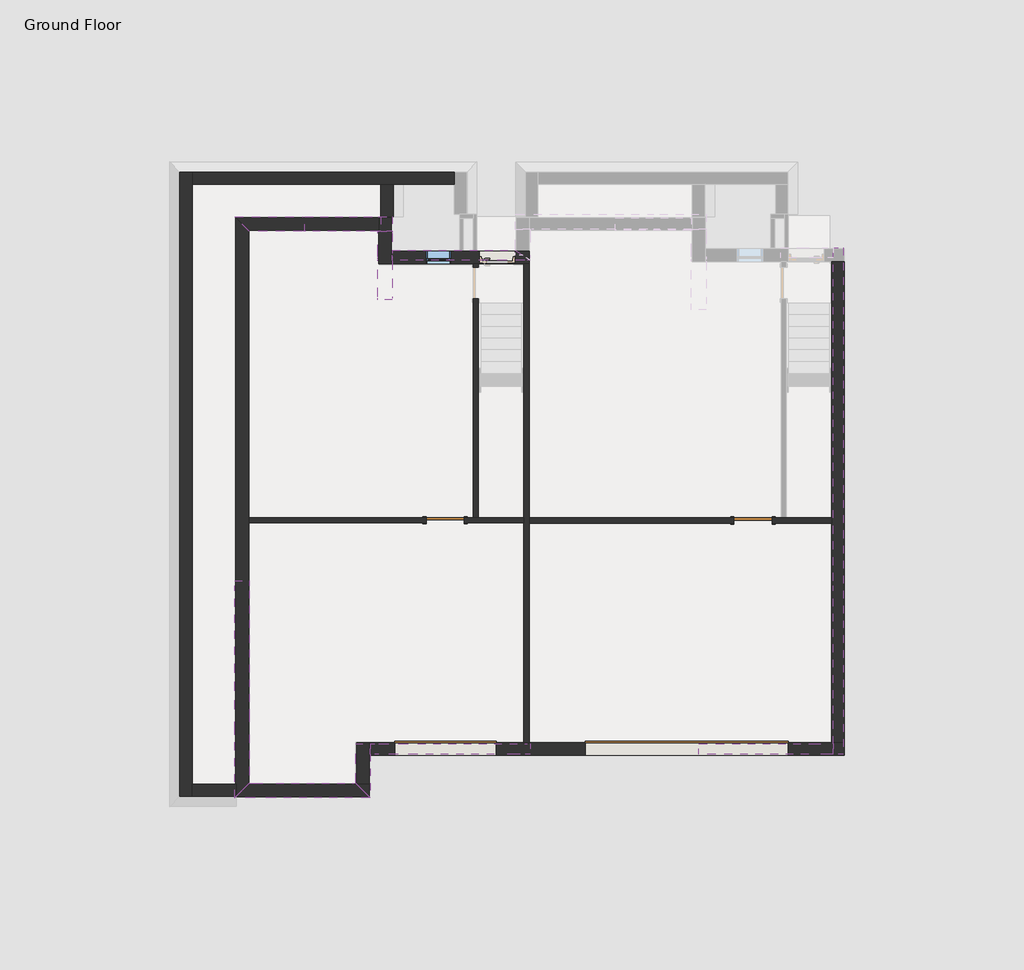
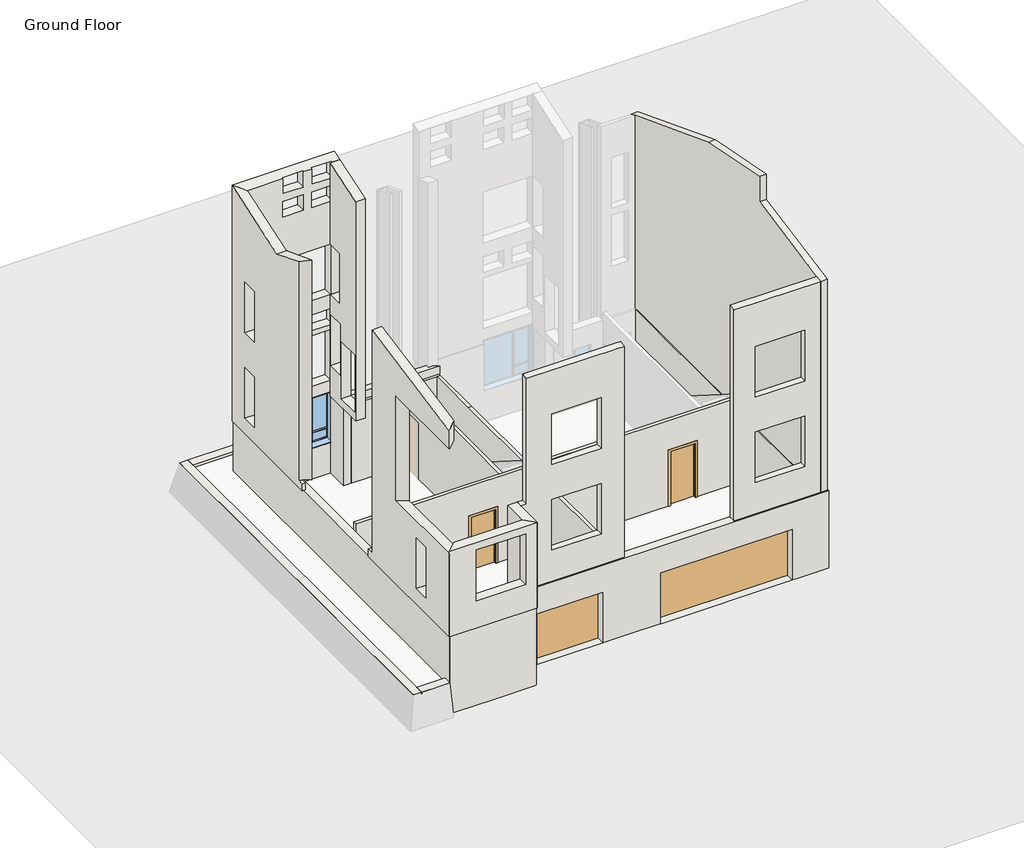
# One storey, part 1 of 2: 25 walls, 4 doors, 2 windows.
"""IFC4 building model written with IfcOpenShell, lengths in millimetres."""

from ifc_helpers import new_model, si_unit, frame, origin, place, context, project, spatial, polyline, outline, extrude, faceted_brep, transform, mapped, element, save
from components import door_03d53f81, door_8bec8b28, door_88503111, window_ca6665d5, window_dcb26459

model = new_model("IFC4")

# Units and contexts
model_context = context("Model", 3, world=origin())
ifc_project = project(units=[si_unit("LENGTHUNIT", "METRE", prefix="MILLI")], contexts=[model_context])

# Site, building, storey
site = spatial("IfcSite", under=ifc_project)
building = spatial("IfcBuilding", under=site)
storey = spatial("IfcBuildingStorey", under=building, Name="Ground Floor", Elevation=-3352.8)

# Doors
placement = place(None, origin())
door_shape = door_03d53f81(model_context)
element("IfcDoor", 1, ObjectType="Door-Overhead-Sectional : 16' x 6'-6\"", at=placement, inside=storey, context=model_context, shape_type="MappedRepresentation", body=[
    mapped(door_shape, transform((2182.7178219, -6034.5046456, -3352.8), x_axis=(1.0, 0.0, 0.0), y_axis=(0.0, 1.0, 0.0), z_axis=(0.0, 0.0, 1.0))),
])
door_2_shape = door_8bec8b28(model_context)
element("IfcDoor", 2, ObjectType="Door-Overhead-Sectional : 8' x 6'-6\"", at=placement, inside=storey, context=model_context, shape_type="MappedRepresentation", body=[
    mapped(door_2_shape, transform((-3608.4821781, -6034.5046456, -3352.8), x_axis=(-1.0, 0.0, 0.0), y_axis=(0.0, -1.0, 0.0), z_axis=(0.0, 0.0, 1.0))),
])
door_3_shape = door_88503111(model_context)
element("IfcDoor", 3, ObjectType="Single-Flush : 36\" x 84\"", at=placement, inside=storey, context=model_context, shape_type="MappedRepresentation", body=[
    mapped(door_3_shape, transform((-3614.4696781, -546.2436915, -3352.8), x_axis=(1.0, 0.0, 0.0), y_axis=(0.0, 1.0, 0.0), z_axis=(0.0, 0.0, 1.0))),
])
element("IfcDoor", 4, ObjectType="Single-Flush : 36\" x 84\"", at=placement, inside=storey, context=model_context, shape_type="MappedRepresentation", body=[
    mapped(door_3_shape, transform((3776.1161072, -551.0718139, -3352.8), x_axis=(1.0, 0.0, 0.0), y_axis=(0.0, 1.0, 0.0), z_axis=(0.0, 0.0, 1.0))),
])

# Walls
element("IfcWall", 5, ObjectType="Exterior - Brick", at=placement, inside=storey, context=model_context, shape_type="Brep", body=[
    faceted_brep([(-8664.6696781, -7206.5436915, -304.8), (-5413.4696781, -7206.5436915, -304.8), (-5413.4696781, -7206.5436915, 3048.0), (-8664.6696781, -7206.5436915, 3048.0), (-7671.3168819, -7206.5436915, 762.0), (-7671.3168819, -7206.5436915, 2743.2), (-5842.5168819, -7206.5436915, 2743.2), (-5842.5168819, -7206.5436915, 762.0), (-5765.8946781, -6854.1186915, -304.8), (-8312.2446781, -6854.1186915, -304.8), (-8312.2446781, -6854.1186915, 3048.0), (-5765.8946781, -6854.1186915, 3048.0), (-7671.3168819, -6854.1186915, 2743.2), (-7671.3168819, -6854.1186915, 762.0), (-5842.5168819, -6854.1186915, 762.0), (-5842.5168819, -6854.1186915, 2743.2)], [[[0, 1, 2, 3], [4, 5, 6, 7]], [[8, 9, 10, 11], [12, 13, 14, 15]], [[1, 0, 9, 8]], [[2, 1, 8, 11]], [[3, 2, 11, 10]], [[0, 3, 10, 9]], [[12, 5, 4, 13]], [[13, 4, 7, 14]], [[14, 7, 6, 15]], [[5, 12, 15, 6]]]),
])
element("IfcWall", 6, ObjectType="Exterior - Brick", at=placement, inside=storey, context=model_context, shape_type="Brep", body=[
    faceted_brep([(-5413.4696781, -7206.5436915, -304.8), (-5413.4696781, -6155.1546456, -304.8), (-5413.4696781, -5913.8546456, -304.8), (-5413.4696781, -5913.8546456, 3048.0), (-5413.4696781, -6155.1546456, 3048.0), (-5413.4696781, -7206.5436915, 3048.0), (-5765.8946781, -6854.1186915, -304.8), (-5765.8946781, -6854.1186915, 3048.0), (-5765.8946781, -5913.8546456, 3048.0), (-5765.8946781, -5913.8546456, -304.8)], [[[0, 1, 2, 3, 4, 5]], [[6, 7, 8, 9]], [[2, 1, 0, 6, 9]], [[3, 2, 9, 8]], [[0, 5, 7, 6]], [[5, 4, 3, 8, 7]]]),
])
element("IfcWall", 7, ObjectType="Exterior - Brick on Mtl. Stud", at=placement, inside=storey, context=model_context, shape_type="Brep", body=[
    faceted_brep([(-8312.2446781, 6389.4938085, 8822.2842549), (-8312.2446781, 6389.4938085, 0.0), (-8312.2446781, 6389.4938085, -304.8), (-6989.0821781, 6389.4938085, -304.8), (-6989.0821781, 6389.4938085, -152.4), (-5160.2821781, 6389.4938085, -152.4), (-5160.2821781, 6389.4938085, -304.8), (-4883.0196781, 6389.4938085, -304.8), (-4883.0196781, 6389.4938085, 3657.6), (-5235.4446781, 6389.4938085, 3657.6), (-7048.4446781, 6389.4938085, 3657.6), (-7048.4446781, 6389.4938085, 5638.8), (-5235.4446781, 6389.4938085, 5638.8), (-4883.0196781, 6389.4938085, 5638.8), (-4883.0196781, 6389.4938085, 8822.2842549), (-5160.2821781, 6389.4938085, 8822.2842549), (-5160.2821781, 6389.4938085, 8229.6), (-5922.2821781, 6389.4938085, 8229.6), (-5922.2821781, 6389.4938085, 8822.2842549), (-6227.0821781, 6389.4938085, 8822.2842549), (-6227.0821781, 6389.4938085, 8229.6), (-6989.0821781, 6389.4938085, 8229.6), (-6989.0821781, 6389.4938085, 8822.2842549), (-5160.2821781, 6389.4938085, 3098.8), (-5160.2821781, 6389.4938085, 2489.2), (-5922.2821781, 6389.4938085, 2489.2), (-5922.2821781, 6389.4938085, 3098.8), (-5160.2821781, 6389.4938085, 7924.8), (-5160.2821781, 6389.4938085, 7315.2), (-5922.2821781, 6389.4938085, 7315.2), (-5922.2821781, 6389.4938085, 7924.8), (-6989.0821781, 6389.4938085, 2489.2), (-6989.0821781, 6389.4938085, 3098.8), (-6227.0821781, 6389.4938085, 3098.8), (-6227.0821781, 6389.4938085, 2489.2), (-6227.0821781, 6389.4938085, 7924.8), (-6227.0821781, 6389.4938085, 7315.2), (-6989.0821781, 6389.4938085, 7315.2), (-6989.0821781, 6389.4938085, 7924.8), (-5219.6446781, 6389.4938085, 2286.0), (-5219.6446781, 6389.4938085, 304.8), (-7048.4446781, 6389.4938085, 304.8), (-7048.4446781, 6389.4938085, 2286.0), (-8664.6696781, 6741.9188085, 8938.1680475), (-4883.0196781, 6741.9188085, 8938.1680475), (-4883.0196781, 6741.9188085, -304.8), (-5160.2821781, 6741.9188085, -304.8), (-5160.2821781, 6741.9188085, -152.4), (-6989.0821781, 6741.9188085, -152.4), (-6989.0821781, 6741.9188085, -304.8), (-8664.6696781, 6741.9188085, -304.8), (-5160.2821781, 6741.9188085, 8229.6), (-5160.2821781, 6741.9188085, 8839.2), (-5922.2821781, 6741.9188085, 8839.2), (-5922.2821781, 6741.9188085, 8229.6), (-6227.0821781, 6741.9188085, 8229.6), (-6227.0821781, 6741.9188085, 8839.2), (-6989.0821781, 6741.9188085, 8839.2), (-6989.0821781, 6741.9188085, 8229.6), (-5219.6446781, 6741.9188085, 3657.6), (-5219.6446781, 6741.9188085, 5638.8), (-7048.4446781, 6741.9188085, 5638.8), (-7048.4446781, 6741.9188085, 3657.6), (-5160.2821781, 6741.9188085, 2489.2), (-5160.2821781, 6741.9188085, 3098.8), (-5922.2821781, 6741.9188085, 3098.8), (-5922.2821781, 6741.9188085, 2489.2), (-5160.2821781, 6741.9188085, 7315.2), (-5160.2821781, 6741.9188085, 7924.8), (-5922.2821781, 6741.9188085, 7924.8), (-5922.2821781, 6741.9188085, 7315.2), (-6989.0821781, 6741.9188085, 3098.8), (-6989.0821781, 6741.9188085, 2489.2), (-6227.0821781, 6741.9188085, 2489.2), (-6227.0821781, 6741.9188085, 3098.8), (-6227.0821781, 6741.9188085, 7315.2), (-6227.0821781, 6741.9188085, 7924.8), (-6989.0821781, 6741.9188085, 7924.8), (-6989.0821781, 6741.9188085, 7315.2), (-5219.6446781, 6741.9188085, 304.8), (-5219.6446781, 6741.9188085, 2286.0), (-7048.4446781, 6741.9188085, 2286.0), (-7048.4446781, 6741.9188085, 304.8), (-6989.0821781, 6440.9378573, 8839.2), (-6227.0821781, 6440.9378573, 8839.2), (-5922.2821781, 6440.9378573, 8839.2), (-5160.2821781, 6440.9378573, 8839.2), (-4883.0196781, 6394.6313085, 5638.8), (-4883.0196781, 6394.6313085, 3657.6), (-5219.6446781, 6394.6313085, 3657.6), (-5219.6446781, 6394.6313085, 5638.8)], [[[0, 1, 2, 3, 4, 5, 6, 7, 8, 9, 10, 11, 12, 13, 14, 15, 16, 17, 18, 19, 20, 21, 22], [23, 24, 25, 26], [27, 28, 29, 30], [31, 32, 33, 34], [35, 36, 37, 38], [39, 40, 41, 42]], [[43, 44, 45, 46, 47, 48, 49, 50], [51, 52, 53, 54], [55, 56, 57, 58], [59, 60, 61, 62], [63, 64, 65, 66], [67, 68, 69, 70], [71, 72, 73, 74], [75, 76, 77, 78], [79, 80, 81, 82]], [[45, 7, 6, 46]], [[2, 50, 49, 3]], [[44, 43, 0, 22, 83, 84, 19, 18, 85, 86, 15, 14]], [[7, 45, 44, 14, 13, 87, 88, 8]], [[2, 1, 0, 43, 50]], [[5, 47, 46, 6]], [[48, 4, 3, 49]], [[47, 5, 4, 48]], [[86, 52, 51, 16, 15]], [[16, 51, 54, 17]], [[17, 54, 53, 85, 18]], [[52, 86, 85, 53]], [[84, 56, 55, 20, 19]], [[20, 55, 58, 21]], [[21, 58, 57, 83, 22]], [[56, 84, 83, 57]], [[60, 59, 89, 90]], [[62, 10, 9, 8, 88, 89, 59]], [[10, 62, 61, 11]], [[11, 61, 60, 90, 87, 13, 12]], [[87, 90, 89, 88]], [[23, 64, 63, 24]], [[24, 63, 66, 25]], [[25, 66, 65, 26]], [[64, 23, 26, 65]], [[27, 68, 67, 28]], [[28, 67, 70, 29]], [[29, 70, 69, 30]], [[68, 27, 30, 69]], [[72, 71, 32, 31]], [[73, 72, 31, 34]], [[74, 73, 34, 33]], [[71, 74, 33, 32]], [[36, 35, 76, 75]], [[37, 36, 75, 78]], [[38, 37, 78, 77]], [[35, 38, 77, 76]], [[39, 80, 79, 40]], [[40, 79, 82, 41]], [[41, 82, 81, 42]], [[80, 39, 42, 81]]]),
])
element("IfcWall", 8, ObjectType="Exterior - Brick on Mtl. Stud", at=placement, inside=storey, context=model_context, shape_type="Brep", body=[
    faceted_brep([(-8312.2446781, -2238.8436915, 8711.0519224), (-8312.2446781, -6854.1186915, 7827.4619555), (-8312.2446781, -6854.1186915, 7052.8), (-8312.2446781, -4012.0811915, 7052.8), (-8312.2446781, -4012.0811915, 2952.8), (-8312.2446781, -6854.1186915, 2952.8), (-8312.2446781, -6854.1186915, 0.0), (-8312.2446781, -6854.1186915, -304.8), (-8312.2446781, -1997.5436915, -304.8), (-8312.2446781, -1997.5436915, -28.575), (-8312.2446781, -2238.8436915, -28.575), (-8312.2446781, -2238.8436915, 0.0), (-8312.2446781, -5688.3425794, 304.8), (-8312.2446781, -5688.3425794, 2286.0), (-8312.2446781, -5078.7425794, 2286.0), (-8312.2446781, -5078.7425794, 304.8), (-8664.6696781, -7206.5436915, 7759.9905277), (-8664.6696781, -2238.8436915, 8711.0519224), (-8664.6696781, -2238.8436915, -28.575), (-8664.6696781, -1997.5436915, -28.575), (-8664.6696781, -1997.5436915, -304.8), (-8664.6696781, -7206.5436915, -304.8), (-8664.6696781, -7206.5436915, 2952.8), (-8664.6696781, -3770.7811915, 2952.8), (-8664.6696781, -3770.7811915, 7052.8), (-8664.6696781, -7206.5436915, 7052.8), (-8664.6696781, -5688.3425794, 2286.0), (-8664.6696781, -5688.3425794, 304.8), (-8664.6696781, -5078.7425794, 304.8), (-8664.6696781, -5078.7425794, 2286.0)], [[[0, 1, 2, 3, 4, 5, 6, 7, 8, 9, 10, 11], [12, 13, 14, 15]], [[16, 17, 18, 19, 20, 21, 22, 23, 24, 25], [26, 27, 28, 29]], [[7, 21, 20, 8]], [[17, 16, 1, 0]], [[23, 22, 5, 4]], [[25, 24, 3, 2]], [[18, 10, 9, 19]], [[18, 17, 0, 11, 10]], [[24, 23, 4, 3]], [[22, 21, 7, 6, 5]], [[16, 25, 2, 1]], [[27, 26, 13, 12]], [[28, 27, 12, 15]], [[29, 28, 15, 14]], [[26, 29, 14, 13]], [[9, 8, 20, 19]]]),
    faceted_brep([(-8312.2446781, 6389.4938085, 8821.6527681), (-8312.2446781, 3870.984475, 7984.4952914), (-8312.2446781, 2230.7574206, 8615.9369278), (-8312.2446781, 2230.7574206, 0.0), (-8312.2446781, 6389.4938085, 0.0), (-8312.2446781, 5921.5563085, 2286.0), (-8312.2446781, 5921.5563085, 304.8), (-8312.2446781, 5311.9563085, 304.8), (-8312.2446781, 5311.9563085, 2286.0), (-8312.2446781, 5921.5563085, 5638.8), (-8312.2446781, 5921.5563085, 3657.6), (-8312.2446781, 5311.9563085, 3657.6), (-8312.2446781, 5311.9563085, 5638.8), (-8664.6696781, 2472.0574206, -28.575), (-8664.6696781, 2472.0574206, 8523.0431626), (-8664.6696781, 3870.984475, 7984.4952914), (-8664.6696781, 6741.9188085, 8938.7995342), (-8664.6696781, 6741.9188085, -304.8), (-8664.6696781, 2230.7574206, -304.8), (-8664.6696781, 2230.7574206, -28.575), (-8664.6696781, 5921.5563085, 304.8), (-8664.6696781, 5921.5563085, 2286.0), (-8664.6696781, 5311.9563085, 2286.0), (-8664.6696781, 5311.9563085, 304.8), (-8664.6696781, 5921.5563085, 3657.6), (-8664.6696781, 5921.5563085, 5638.8), (-8664.6696781, 5311.9563085, 5638.8), (-8664.6696781, 5311.9563085, 3657.6), (-8312.2446781, 6389.4938085, -304.8), (-8566.5821781, 6389.4938085, -304.8), (-8566.5821781, 2230.7574206, -304.8), (-8566.5821781, 2230.7574206, -28.575), (-8566.5821781, 2404.8984116, -28.575), (-8566.5821781, 2404.8984116, 0.0), (-8566.5821781, 6389.4938085, 0.0)], [[[0, 1, 2, 3, 4], [5, 6, 7, 8], [9, 10, 11, 12]], [[13, 14, 15, 16, 17, 18, 19], [20, 21, 22, 23], [24, 25, 26, 27]], [[17, 28, 29, 30, 18]], [[13, 19, 31, 32]], [[14, 13, 32, 33, 3, 2]], [[16, 15, 1, 0]], [[15, 14, 2, 1]], [[17, 16, 0, 4, 28]], [[5, 21, 20, 6]], [[6, 20, 23, 7]], [[7, 23, 22, 8]], [[21, 5, 8, 22]], [[10, 9, 25, 24]], [[11, 10, 24, 27]], [[12, 11, 27, 26]], [[9, 12, 26, 25]], [[34, 4, 3, 33]], [[30, 31, 19, 18]], [[29, 34, 33, 32, 31, 30]], [[34, 29, 28, 4]]]),
])
element("IfcWall", 9, ObjectType="Exterior - Brick on Mtl. Stud", at=placement, inside=storey, context=model_context, shape_type="Brep", body=[
    faceted_brep([(-4883.0196781, 4753.1563085, -304.8), (-4883.0196781, 5697.0687973, -304.8), (-4883.0196781, 5938.3687973, -304.8), (-4883.0196781, 6389.4938085, -304.8), (-4883.0196781, 6389.4938085, 3657.6), (-4883.0196781, 5785.0313085, 3657.6), (-4883.0196781, 5785.0313085, 5638.8), (-4883.0196781, 6389.4938085, 5638.8), (-4883.0196781, 6389.4938085, 8822.2842549), (-4883.0196781, 4753.1563085, 8284.2265248), (-4883.0196781, 5734.2313085, 914.4), (-4883.0196781, 5734.2313085, 2895.6), (-4883.0196781, 6343.8313085, 2895.6), (-4883.0196781, 6343.8313085, 914.4), (-4883.0196781, 4826.1813085, 0.0), (-4883.0196781, 4826.1813085, 2235.2), (-4883.0196781, 5689.7813085, 2235.2), (-4883.0196781, 5689.7813085, 0.0), (-5235.4446781, 6389.4938085, -304.8), (-5235.4446781, 4753.1563085, -304.8), (-5235.4446781, 4753.1563085, 0.0), (-5235.4446781, 4753.1563085, 6705.6), (-5235.4446781, 4753.1563085, 8284.2265248), (-5235.4446781, 6389.4938085, 8822.2842549), (-5235.4446781, 6389.4938085, 5638.8), (-5235.4446781, 5785.0313085, 5638.8), (-5235.4446781, 5785.0313085, 3657.6), (-5235.4446781, 6389.4938085, 3657.6), (-5235.4446781, 5734.2313085, 2895.6), (-5235.4446781, 5734.2313085, 914.4), (-5235.4446781, 6343.8313085, 914.4), (-5235.4446781, 6343.8313085, 2895.6), (-5235.4446781, 4826.1813085, 0.0), (-5235.4446781, 5689.7813085, 0.0), (-5235.4446781, 5689.7813085, 2235.2), (-5235.4446781, 4826.1813085, 2235.2), (-5160.2821781, 6389.4938085, -304.8), (-5160.2821781, 6389.4938085, 8822.2842549)], [[[0, 1, 2, 3, 4, 5, 6, 7, 8, 9], [10, 11, 12, 13], [14, 15, 16, 17]], [[18, 19, 20, 21, 22, 23, 24, 25, 26, 27], [28, 29, 30, 31], [32, 33, 34, 35]], [[19, 18, 36, 3, 2, 1, 0]], [[23, 22, 9, 8, 37]], [[22, 21, 20, 19, 0, 9]], [[28, 11, 10, 29]], [[29, 10, 13, 30]], [[30, 13, 12, 31]], [[11, 28, 31, 12]], [[25, 6, 5, 26]], [[26, 5, 4, 27]], [[6, 25, 24, 7]], [[3, 36, 18, 27, 4]], [[23, 37, 8, 7, 24]], [[15, 14, 32, 35]], [[16, 15, 35, 34]], [[17, 16, 34, 33]], [[14, 17, 33, 32]]]),
])
element("IfcWall", 10, ObjectType="Exterior - Stucco", at=placement, inside=storey, context=model_context, shape_type="Brep", body=[
    faceted_brep([(-1928.5446781, 5938.3687973, -304.8), (-4883.0196781, 5938.3687973, -304.8), (-4883.0196781, 5938.3687973, 0.0), (-3024.9735601, 5938.3687973, 0.0), (-1928.5446781, 5938.3687973, 0.0), (-1576.1196781, 5697.0687973, -304.8), (-1576.1196781, 5697.0687973, 0.0), (-1699.9446781, 5697.0687973, 0.0), (-3024.9735601, 5697.0687973, 0.0), (-4883.0196781, 5697.0687973, 0.0), (-4883.0196781, 5697.0687973, -304.8)], [[[0, 1, 2, 3, 4]], [[5, 6, 7, 8, 9, 10]], [[1, 0, 5, 10]], [[4, 3, 2, 9, 8, 7, 6]], [[0, 4, 6, 5]], [[2, 1, 10, 9]]]),
])
element("IfcWall", 11, ObjectType="Exterior - Stucco", at=placement, inside=storey, context=model_context, shape_type="Brep", body=[
    faceted_brep([(5698.2155789, 5995.5187973, -304.8), (5698.2155789, 5754.2187973, -304.8), (5698.2155789, -5913.8546456, -304.8), (5698.2155789, -6155.1546456, -304.8), (5698.2155789, -6155.1546456, 7960.2821444), (5698.2155789, -5913.8546456, 8006.2042381), (5698.2155789, -2238.8436915, 8705.6), (5698.2155789, -2238.8436915, 9713.3498366), (5698.2155789, -1997.5436915, 9665.7212145), (5698.2155789, 1023.3611207, 9069.4446552), (5698.2155789, 5754.2187973, 7248.1964902), (5698.2155789, 5995.5187973, 7155.302725), (5939.5155789, 5995.5187973, -304.8), (5939.5155789, 5995.5187973, 7155.302725), (5939.5155789, 1023.3611207, 9069.4446552), (5939.5155789, -2238.8436915, 9713.3498366), (5939.5155789, -2238.8436915, 8705.6), (5939.5155789, -6155.1546456, 7960.2821444), (5939.5155789, -6155.1546456, -304.8)], [[[0, 1, 2, 3, 4, 5, 6, 7, 8, 9, 10, 11]], [[12, 13, 14, 15, 16, 17, 18]], [[3, 2, 1, 0, 12, 18]], [[4, 3, 18, 17]], [[0, 11, 13, 12]], [[15, 7, 6, 16]], [[6, 5, 4, 17, 16]], [[11, 10, 9, 14, 13]], [[9, 8, 7, 15, 14]]]),
])
element("IfcWall", 12, ObjectType="Exterior - Stucco", at=placement, inside=storey, context=model_context, shape_type="Brep", body=[
    faceted_brep([(2477.8178219, -5913.8546456, -304.8), (5698.2155789, -5913.8546456, -304.8), (5698.2155789, -6155.1546456, -304.8), (2477.8178219, -6155.1546456, -304.8), (2477.8178219, -5913.8546456, 8006.2042381), (5698.2155789, -5913.8546456, 8006.2042381), (3280.9655789, -5913.8546456, 6248.4), (3280.9655789, -5913.8546456, 4267.2), (5109.7655789, -5913.8546456, 4267.2), (5109.7655789, -5913.8546456, 6248.4), (3280.9655789, -5913.8546456, 2895.6), (3280.9655789, -5913.8546456, 914.4), (5109.7655789, -5913.8546456, 914.4), (5109.7655789, -5913.8546456, 2895.6), (5698.2155789, -6155.1546456, 7960.2821444), (2477.8178219, -6155.1546456, 7960.2821444), (3280.9655789, -6155.1546456, 4267.2), (3280.9655789, -6155.1546456, 6248.4), (5109.7655789, -6155.1546456, 6248.4), (5109.7655789, -6155.1546456, 4267.2), (3280.9655789, -6155.1546456, 914.4), (3280.9655789, -6155.1546456, 2895.6), (5109.7655789, -6155.1546456, 2895.6), (5109.7655789, -6155.1546456, 914.4)], [[[0, 1, 2, 3]], [[1, 0, 4, 5], [6, 7, 8, 9], [10, 11, 12, 13]], [[3, 2, 14, 15], [16, 17, 18, 19], [20, 21, 22, 23]], [[1, 5, 14, 2]], [[16, 7, 6, 17]], [[7, 16, 19, 8]], [[18, 9, 8, 19]], [[17, 6, 9, 18]], [[14, 5, 4, 15]], [[4, 0, 3, 15]], [[10, 21, 20, 11]], [[11, 20, 23, 12]], [[12, 23, 22, 13]], [[21, 10, 13, 22]]]),
])
element("IfcWall", 13, ObjectType="Exterior - Stucco", at=placement, inside=storey, context=model_context, shape_type="Brep", body=[
    faceted_brep([(-5413.4696781, -5913.8546456, -304.8), (-1576.1196781, -5913.8546456, -304.8), (-1576.1196781, -6155.1546456, -304.8), (-1817.4196781, -6155.1546456, -304.8), (-5413.4696781, -6155.1546456, -304.8), (-5413.4696781, -5913.8546456, 3048.0), (-5204.2321781, -5913.8546456, 3048.0), (-5204.2321781, -5913.8546456, 8006.2042381), (-1699.9446781, -5913.8546456, 8006.2042381), (-1576.1196781, -5913.8546456, 8006.2042381), (-1576.1196781, -5913.8546456, 0.0), (-2438.2515857, -5913.8546456, 6248.4), (-4267.0515857, -5913.8546456, 6248.4), (-4267.0515857, -5913.8546456, 4267.2), (-2438.2515857, -5913.8546456, 4267.2), (-2438.2515857, -5913.8546456, 2895.6), (-4267.0515857, -5913.8546456, 2895.6), (-4267.0515857, -5913.8546456, 914.4), (-2438.2515857, -5913.8546456, 914.4), (-1576.1196781, -6155.1546456, 7960.2821444), (-1817.4196781, -6155.1546456, 7960.2821444), (-5204.2321781, -6155.1546456, 7960.2821444), (-5204.2321781, -6155.1546456, 7052.6671875), (-5204.2321781, -6155.1546456, 3048.0), (-5413.4696781, -6155.1546456, 3048.0), (-2438.2515857, -6155.1546456, 6248.4), (-2438.2515857, -6155.1546456, 4267.2), (-4267.0515857, -6155.1546456, 4267.2), (-4267.0515857, -6155.1546456, 6248.4), (-2438.2515857, -6155.1546456, 2895.6), (-2438.2515857, -6155.1546456, 914.4), (-4267.0515857, -6155.1546456, 914.4), (-4267.0515857, -6155.1546456, 2895.6)], [[[0, 1, 2, 3, 4]], [[1, 0, 5, 6, 7, 8, 9, 10], [11, 12, 13, 14], [15, 16, 17, 18]], [[2, 19, 20, 21, 22, 23, 24, 4, 3], [25, 26, 27, 28], [29, 30, 31, 32]], [[5, 0, 4, 24]], [[9, 8, 7, 21, 20, 19]], [[25, 28, 12, 11]], [[28, 27, 13, 12]], [[27, 26, 14, 13]], [[26, 25, 11, 14]], [[6, 5, 24, 23]], [[1, 10, 9, 19, 2]], [[21, 7, 6, 23, 22]], [[30, 29, 15, 18]], [[31, 30, 18, 17]], [[32, 31, 17, 16]], [[29, 32, 16, 15]]]),
])
element("IfcWall", 14, ObjectType="Foundation - 12\" Concrete", at=placement, inside=storey, context=model_context, shape_type="Brep", body=[
    faceted_brep([(-8639.2696781, 6718.1063085, -5181.6), (-5211.6321781, 6718.1063085, -5181.6), (-5211.6321781, 6413.3063085, -5181.6), (-8334.4696781, 6413.3063085, -5181.6), (-8639.2696781, 6718.1063085, -304.8), (-6989.0821781, 6718.1063085, -304.8), (-6989.0821781, 6718.1063085, -2133.6), (-5211.6321781, 6718.1063085, -2133.6), (-5211.6321781, 6413.3063085, -2133.6), (-6989.0821781, 6413.3063085, -2133.6), (-6989.0821781, 6413.3063085, -304.8), (-8334.4696781, 6413.3063085, -304.8)], [[[0, 1, 2, 3]], [[1, 0, 4, 5, 6, 7]], [[3, 2, 8, 9, 10, 11]], [[4, 11, 10, 5]], [[4, 0, 3, 11]], [[2, 1, 7, 8]], [[6, 9, 8, 7]], [[9, 6, 5, 10]]]),
])
element("IfcWall", 15, ObjectType="Foundation - 12\" Concrete", at=placement, inside=storey, context=model_context, shape_type="Brep", body=[
    faceted_brep([(-8639.2696781, -7182.7311915, -5181.6), (-5437.2821781, -7182.7311915, -5181.6), (-5437.2821781, -7182.7311915, -304.8), (-8639.2696781, -7182.7311915, -304.8), (-8334.4696781, -6877.9311915, -5181.6), (-8334.4696781, -6877.9311915, -304.8), (-5742.0821781, -6877.9311915, -304.8), (-5437.2821781, -6877.9311915, -304.8), (-5437.2821781, -6877.9311915, -5181.6), (-5742.0821781, -6877.9311915, -5181.6)], [[[0, 1, 2, 3]], [[4, 5, 6, 7, 8, 9]], [[1, 0, 4, 9, 8]], [[3, 2, 7, 6, 5]], [[2, 1, 8, 7]], [[0, 3, 5, 4]]]),
])
element("IfcWall", 16, ObjectType="Foundation - 12\" Concrete", at=placement, inside=storey, context=model_context, shape_type="Brep", body=[
    faceted_brep([(-5437.2821781, -6877.9311915, -5181.6), (-5437.2821781, -6186.9046456, -5181.6), (-5437.2821781, -5882.1046456, -5181.6), (-5437.2821781, -5882.1046456, -304.8), (-5437.2821781, -6186.9046456, -304.8), (-5437.2821781, -6877.9311915, -304.8), (-5742.0821781, -6877.9311915, -5181.6), (-5742.0821781, -6877.9311915, -304.8), (-5742.0821781, -5882.1046456, -304.8), (-5742.0821781, -5882.1046456, -5181.6)], [[[0, 1, 2, 3, 4, 5]], [[6, 7, 8, 9]], [[2, 1, 0, 6, 9]], [[5, 4, 3, 8, 7]], [[3, 2, 9, 8]], [[0, 5, 7, 6]]]),
])
element("IfcWall", 17, ObjectType="Foundation - 12\" Concrete", at=placement, inside=storey, context=model_context, shape_type="Brep", body=[
    faceted_brep([(5971.2655789, -6186.9046456, -5181.6), (-5437.2821781, -6186.9046456, -5181.6), (-5437.2821781, -5882.1046456, -5181.6), (5666.4655789, -5882.1046456, -5181.6), (5971.2655789, -5882.1046456, -5181.6), (5971.2655789, -6186.9046456, -304.8), (-5437.2821781, -6186.9046456, -304.8), (-4827.6821781, -6186.9046456, -3352.8), (-4827.6821781, -6186.9046456, -1371.6), (-2389.2821781, -6186.9046456, -1371.6), (-2389.2821781, -6186.9046456, -3352.8), (4621.1178219, -6186.9046456, -1371.6), (4621.1178219, -6186.9046456, -3352.8), (-255.6821781, -6186.9046456, -3352.8), (-255.6821781, -6186.9046456, -1371.6), (-5437.2821781, -5882.1046456, -304.8), (5666.4655789, -5882.1046456, -304.8), (5971.2655789, -5882.1046456, -304.8), (-4827.6821781, -5882.1046456, -1371.6), (-4827.6821781, -5882.1046456, -3352.8), (-2389.2821781, -5882.1046456, -3352.8), (-2389.2821781, -5882.1046456, -1371.6), (4621.1178219, -5882.1046456, -3352.8), (4621.1178219, -5882.1046456, -1371.6), (-255.6821781, -5882.1046456, -1371.6), (-255.6821781, -5882.1046456, -3352.8)], [[[0, 1, 2, 3, 4]], [[1, 0, 5, 6], [7, 8, 9, 10], [11, 12, 13, 14]], [[4, 3, 2, 15, 16, 17], [18, 19, 20, 21], [22, 23, 24, 25]], [[6, 5, 17, 16, 15]], [[1, 6, 15, 2]], [[5, 0, 4, 17]], [[8, 7, 19, 18]], [[9, 8, 18, 21]], [[10, 9, 21, 20]], [[7, 10, 20, 19]], [[22, 12, 11, 23]], [[23, 11, 14, 24]], [[24, 14, 13, 25]], [[12, 22, 25, 13]]]),
])
element("IfcWall", 18, ObjectType="Foundation - 12\" Concrete", at=placement, inside=storey, context=model_context, shape_type="SweptSolid", body=[
    extrude(outline(polyline([(5971.2655789, 5665.3187973), (5971.2655789, -5882.1046456), (5666.4655789, -5882.1046456), (5666.4655789, 5665.3187973), (5971.2655789, 5665.3187973)])), frame((0.0, 0.0, -5181.6), z_axis=(0.0, 0.0, 1.0), x_axis=(1.0, 0.0, 0.0)), (0.0, 0.0, 1.0), 4876.8),
])
element("IfcWall", 19, ObjectType="Foundation - 12\" Concrete", at=placement, inside=storey, context=model_context, shape_type="Brep", body=[
    faceted_brep([(-5211.6321781, 5608.1687973, -5181.6), (-5211.6321781, 6413.3063085, -5181.6), (-5211.6321781, 6718.1063085, -5181.6), (-4906.8321781, 6718.1063085, -5181.6), (-4906.8321781, 5912.9687973, -5181.6), (-4906.8321781, 5608.1687973, -5181.6), (-4906.8321781, 5608.1687973, -304.8), (-4906.8321781, 5912.9687973, -304.8), (-4906.8321781, 6718.1063085, -304.8), (-5160.2821781, 6718.1063085, -304.8), (-5160.2821781, 6389.4938085, -304.8), (-5211.6321781, 6389.4938085, -304.8), (-5211.6321781, 5608.1687973, -304.8), (-5211.6321781, 6389.4938085, -2133.6), (-5211.6321781, 6413.3063085, -2133.6), (-5211.6321781, 6718.1063085, -2133.6), (-5160.2821781, 6718.1063085, -2133.6), (-5160.2821781, 6389.4938085, -2133.6)], [[[0, 1, 2, 3, 4, 5]], [[6, 7, 8, 9, 10, 11, 12]], [[2, 1, 0, 12, 11, 13, 14, 15]], [[5, 4, 3, 8, 7, 6]], [[8, 3, 2, 15, 16, 9]], [[12, 0, 5, 6]], [[10, 17, 13, 11]], [[16, 17, 10, 9]], [[17, 16, 15, 14, 13]]]),
])
element("IfcWall", 20, ObjectType="Foundation - 12\" Concrete", at=placement, inside=storey, context=model_context, shape_type="Brep", body=[
    faceted_brep([(-1599.9321781, 5608.1687973, -5181.6), (-4906.8321781, 5608.1687973, -5181.6), (-4906.8321781, 5912.9687973, -5181.6), (-1904.7321781, 5912.9687973, -5181.6), (-1599.9321781, 5912.9687973, -5181.6), (-4906.8321781, 5608.1687973, -304.8), (-1599.9321781, 5608.1687973, -304.8), (-1599.9321781, 5912.9687973, -304.8), (-1904.7321781, 5912.9687973, -304.8), (-4906.8321781, 5912.9687973, -304.8), (-4080.6610601, 5608.1687973, -1066.8), (-3471.0610601, 5608.1687973, -1066.8), (-3471.0610601, 5608.1687973, -3048.0), (-4080.6610601, 5608.1687973, -3048.0), (-1930.1321781, 5608.1687973, -3352.8), (-2793.7321781, 5608.1687973, -3352.8), (-2793.7321781, 5608.1687973, -1117.6), (-1930.1321781, 5608.1687973, -1117.6), (-4080.6610601, 5912.9687973, -1066.8), (-4080.6610601, 5912.9687973, -3048.0), (-3471.0610601, 5912.9687973, -3048.0), (-3471.0610601, 5912.9687973, -1066.8), (-1930.1321781, 5912.9687973, -3352.8), (-1930.1321781, 5912.9687973, -1117.6), (-2793.7321781, 5912.9687973, -1117.6), (-2793.7321781, 5912.9687973, -3352.8)], [[[0, 1, 2, 3, 4]], [[5, 6, 7, 8, 9]], [[1, 0, 6, 5], [10, 11, 12, 13], [14, 15, 16, 17]], [[2, 9, 8, 7, 4, 3], [18, 19, 20, 21], [22, 23, 24, 25]], [[1, 5, 9, 2]], [[6, 0, 4, 7]], [[19, 18, 10, 13]], [[20, 19, 13, 12]], [[21, 20, 12, 11]], [[18, 21, 11, 10]], [[23, 22, 14, 17]], [[24, 23, 17, 16]], [[25, 24, 16, 15]], [[22, 25, 15, 14]]]),
])
element("IfcWall", 21, ObjectType="Foundation - 12\" Concrete", at=placement, inside=storey, context=model_context, shape_type="SweptSolid", body=[
    extrude(outline(polyline([(-8639.2696781, -7182.7311915), (-8639.2696781, 6718.1063085), (-8334.4696781, 6413.3063085), (-8334.4696781, -6877.9311915), (-8639.2696781, -7182.7311915)])), frame((0.0, 0.0, -5181.6), z_axis=(0.0, 0.0, 1.0), x_axis=(1.0, 0.0, 0.0)), (0.0, 0.0, 1.0), 4876.8),
])
element("IfcWall", 22, ObjectType="Interior - 4 7/8\" Partition (1-hr)", at=placement, inside=storey, context=model_context, shape_type="Brep", body=[
    faceted_brep([(-1723.7571781, 5608.1687973, -3352.8), (-1723.7571781, -484.3311915, -3352.8), (-1723.7571781, -608.1561915, -3352.8), (-1723.7571781, -5882.1046456, -3352.8), (-1723.7571781, -5882.1046456, -304.8), (-1723.7571781, -384.9686915, -304.8), (-1723.7571781, 3603.8062973, -304.8), (-1723.7571781, 5608.1687973, -304.8), (-1599.9321781, 5608.1687973, -3352.8), (-1599.9321781, 5608.1687973, -304.8), (-1599.9321781, 3603.8062973, -304.8), (-1599.9321781, -384.9686915, -304.8), (-1599.9321781, -5882.1046456, -304.8), (-1599.9321781, -5882.1046456, -3352.8), (-1599.9321781, -612.9843139, -3352.8), (-1599.9321781, -489.1593139, -3352.8)], [[[0, 1, 2, 3, 4, 5, 6, 7]], [[8, 9, 10, 11, 12, 13, 14, 15]], [[3, 2, 1, 0, 8, 15, 14, 13]], [[4, 3, 13, 12]], [[0, 7, 9, 8]], [[6, 5, 11, 10]], [[5, 4, 12, 11]], [[7, 6, 10, 9]]]),
])
element("IfcWall", 23, ObjectType="Interior - 4 7/8\" Partition (1-hr)", at=placement, inside=storey, context=model_context, shape_type="Brep", body=[
    faceted_brep([(-8330.0446781, -484.3311915, 0.0), (-8330.0446781, -484.3311915, -3352.8), (-8330.0446781, -608.1561915, -3352.8), (-8330.0446781, -608.1561915, 0.0), (-1723.7571781, -608.1561915, -3352.8), (-3157.2696781, -608.1561915, -3352.8), (-3157.2696781, -484.3311915, -3352.8), (-2939.7821781, -484.3311915, -3352.8), (-2815.9571781, -484.3311915, -3352.8), (-1723.7571781, -484.3311915, -3352.8), (-4071.6696781, -608.1561915, -3352.8), (-4071.6696781, -484.3311915, -3352.8), (-1723.7571781, -484.3311915, 0.0), (-2815.9571781, -484.3311915, 0.0), (-2939.7821781, -484.3311915, 0.0), (-1723.7571781, -608.1561915, 0.0), (-3157.2696781, -484.3311915, -1219.2), (-4071.6696781, -484.3311915, -1219.2), (-3157.2696781, -608.1561915, -1219.2), (-4071.6696781, -608.1561915, -1219.2)], [[[0, 1, 2, 3]], [[4, 5, 6, 7, 8, 9]], [[10, 2, 1, 11]], [[12, 13, 14, 0, 3, 15]], [[9, 8, 7, 6, 16, 17, 11, 1, 0, 14, 13, 12]], [[18, 5, 4, 15, 3, 2, 10, 19]], [[9, 12, 15, 4]], [[16, 6, 5, 18]], [[17, 16, 18, 19]], [[11, 17, 19, 10]]]),
])
element("IfcWall", 24, ObjectType="Interior - 4 7/8\" Partition (1-hr)", at=placement, inside=storey, context=model_context, shape_type="Brep", body=[
    faceted_brep([(5666.4655789, -612.9843139, 0.0), (5666.4655789, -612.9843139, -3352.8), (5666.4655789, -489.1593139, -3352.8), (5666.4655789, -489.1593139, 0.0), (4233.3161072, -612.9843139, -3352.8), (4233.3161072, -489.1593139, -3352.8), (4450.4405789, -489.1593139, -3352.8), (4574.2655789, -489.1593139, -3352.8), (3318.9161072, -612.9843139, -3352.8), (-1599.9321781, -612.9843139, -3352.8), (-1599.9321781, -489.1593139, -3352.8), (3318.9161072, -489.1593139, -3352.8), (-1599.9321781, -612.9843139, 0.0), (4574.2655789, -489.1593139, 0.0), (4450.4405789, -489.1593139, 0.0), (-1599.9321781, -489.1593139, 0.0), (4233.3161072, -612.9843139, -1219.2), (3318.9161072, -612.9843139, -1219.2), (4233.3161072, -489.1593139, -1219.2), (3318.9161072, -489.1593139, -1219.2)], [[[0, 1, 2, 3]], [[1, 4, 5, 6, 7, 2]], [[8, 9, 10, 11]], [[12, 0, 3, 13, 14, 15]], [[16, 4, 1, 0, 12, 9, 8, 17]], [[2, 7, 6, 5, 18, 19, 11, 10, 15, 14, 13, 3]], [[9, 12, 15, 10]], [[18, 5, 4, 16]], [[19, 18, 16, 17]], [[11, 19, 17, 8]]]),
])
element("IfcWall", 25, ObjectType="Interior - 4 7/8\" Partition (1-hr)", at=placement, inside=storey, context=model_context, shape_type="SweptSolid", body=[
    extrude(outline(polyline([(5608.1687973, 0.0), (5608.1687973, -3352.8), (5531.9688085, -3352.8), (5531.9688085, -1219.2), (4769.9688085, -1219.2), (4769.9688085, -3352.8), (-484.3311915, -3352.8), (-484.3311915, 0.0), (5608.1687973, 0.0)])), frame((-2939.7821781, 0.0, 0.0), z_axis=(1.0, 0.0, 0.0), x_axis=(0.0, 1.0, 0.0)), (0.0, 0.0, 1.0), 123.825),
])
element("IfcWall", 26, ObjectType="Retaining - Stone", at=placement, inside=storey, context=model_context, shape_type="Brep", body=[
    faceted_brep([(-9685.91894, -7182.7311915, -3352.8), (-9685.91894, -6877.9311915, -3352.8), (-9685.9189399, 7517.5188085, -3352.8), (-9685.9189399, 7822.3188085, -3352.8), (-9685.9189399, 7822.3188085, -2133.6), (-9685.9189399, 7517.5188085, -2133.6), (-9685.91894, -6877.9311915, -2133.6), (-9685.91894, -7182.7311915, -2133.6), (-9990.7189399, 7822.3188085, -3352.8), (-9990.71894, -7182.7311915, -3352.8), (-9990.71894, -7182.7311915, -2133.6), (-9990.7189399, 7822.3188085, -2133.6)], [[[0, 1, 2, 3, 4, 5, 6, 7]], [[8, 9, 10, 11]], [[3, 2, 1, 0, 9, 8]], [[7, 6, 5, 4, 11, 10]], [[4, 3, 8, 11]], [[0, 7, 10, 9]]]),
])
element("IfcWall", 27, ObjectType="Retaining - Stone", at=placement, inside=storey, context=model_context, shape_type="Brep", body=[
    faceted_brep([(-9685.9189399, 7517.5188085, -3352.8), (-5160.8321781, 7517.5188085, -3352.8), (-4856.0321781, 7517.5188085, -3352.8), (-3395.312033, 7517.5188085, -3352.8), (-3395.312033, 7517.5188085, -2133.6), (-4856.0321781, 7517.5188085, -2133.6), (-5160.8321781, 7517.5188085, -2133.6), (-9685.9189399, 7517.5188085, -2133.6), (-3395.312033, 7822.3188085, -3352.8), (-9685.9189399, 7822.3188085, -3352.8), (-9685.9189399, 7822.3188085, -2133.6), (-3395.312033, 7822.3188085, -2133.6)], [[[0, 1, 2, 3, 4, 5, 6, 7]], [[8, 9, 10, 11]], [[3, 2, 1, 0, 9, 8]], [[7, 6, 5, 4, 11, 10]], [[0, 7, 10, 9]], [[4, 3, 8, 11]]]),
])
element("IfcWall", 28, ObjectType="Retaining - Stone", at=placement, inside=storey, context=model_context, shape_type="SweptSolid", body=[
    extrude(outline(polyline([(-5160.8321781, 6743.5063085), (-5160.8321781, 7517.5188085), (-4856.0321781, 7517.5188085), (-4856.0321781, 6743.5063085), (-5160.8321781, 6743.5063085)])), frame((0.0, 0.0, -3352.8), z_axis=(0.0, 0.0, 1.0), x_axis=(1.0, 0.0, 0.0)), (0.0, 0.0, 1.0), 1219.2),
])
element("IfcWall", 29, ObjectType="Retaining - Stone", at=placement, inside=storey, context=model_context, shape_type="SweptSolid", body=[
    extrude(outline(polyline([(-8634.8446781, -7182.7311915), (-9685.91894, -7182.7311915), (-9685.91894, -6877.9311915), (-8634.8446781, -6877.9311915), (-8634.8446781, -7182.7311915)])), frame((0.0, 0.0, -3352.8), z_axis=(0.0, 0.0, 1.0), x_axis=(1.0, 0.0, 0.0)), (0.0, 0.0, 1.0), 1219.2),
])

# Windows
window_shape = window_ca6665d5(model_context)
element("IfcWindow", 30, ObjectType="Fixed : 24\" x 78\"", at=placement, inside=storey, context=model_context, shape_type="MappedRepresentation", body=[
    mapped(window_shape, transform((-3813.9610601, 5760.5687973, -3352.8), x_axis=(-1.0, 0.0, 0.0), y_axis=(0.0, -1.0, 0.0), z_axis=(0.0, 0.0, 1.0))),
])
window_2_shape = window_dcb26459(model_context)
element("IfcWindow", 31, ObjectType="Window-Casement-Double-Sidelight : 72\" x 78\"", at=placement, inside=storey, context=model_context, shape_type="MappedRepresentation", body=[
    mapped(window_2_shape, transform((-6074.6821781, 6565.7063085, -3048.0), x_axis=(1.0, 0.0, 0.0), y_axis=(0.0, 1.0, 0.0), z_axis=(0.0, 0.0, 1.0))),
])

save(model, "model.ifc")
